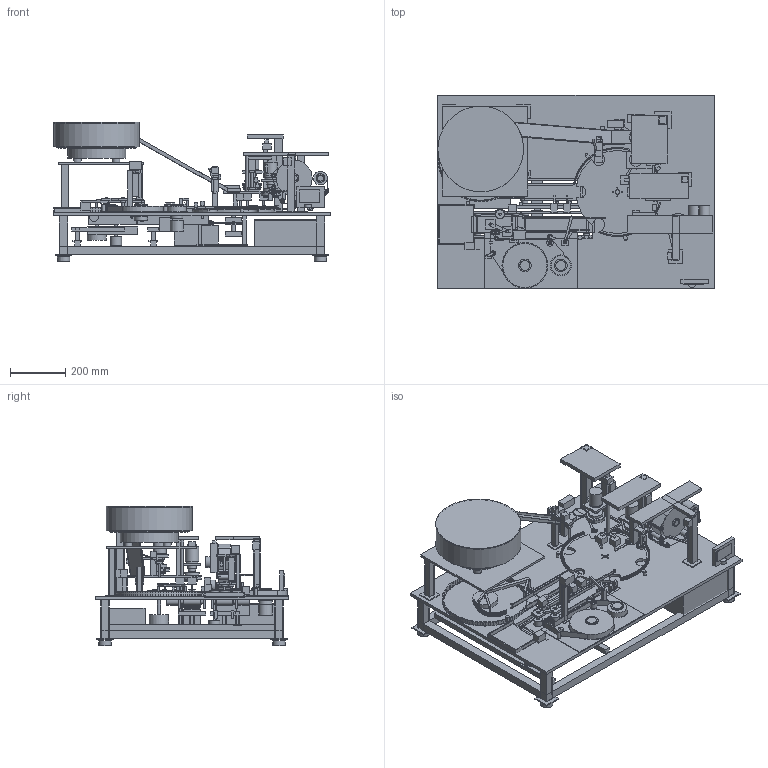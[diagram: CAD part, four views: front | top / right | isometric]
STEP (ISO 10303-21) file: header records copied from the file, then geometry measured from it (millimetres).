
FILE_DESCRIPTION(('Open CASCADE Model'),'2;1');
FILE_NAME('Open CASCADE Shape Model','2026-10-04T02:31:48',('Author'),( 'Open CASCADE'),'Open CASCADE STEP processor 8.0','Open CASCADE 8.0' ,'Unknown');
FILE_SCHEMA(('AUTOMOTIVE_DESIGN { 1 0 10303 214 1 1 1 1 }'));
Length unit declared in the file: millimetre
Products named in the file (430): Open CASCADE STEP translator 8.0 432; Open CASCADE STEP translator 8.0 432.1; Open CASCADE STEP translator 8.0 432.2; Open CASCADE STEP translator 8.0 432.3; Open CASCADE STEP translator 8.0 432.4; Open CASCADE STEP translator 8.0 432.5; Open CASCADE STEP translator 8.0 432.6; Open CASCADE STEP translator 8.0 432.7; Open CASCADE STEP translator 8.0 432.8; Open CASCADE STEP translator 8.0 432.9; Open CASCADE STEP translator 8.0 432.10; Open CASCADE STEP translator 8.0 432.11; Open CASCADE STEP translator 8.0 432.12; Open CASCADE STEP translator 8.0 432.13; Open CASCADE STEP translator 8.0 432.14; Open CASCADE STEP translator 8.0 432.15; Open CASCADE STEP translator 8.0 432.16; Open CASCADE STEP translator 8.0 432.17; Open CASCADE STEP translator 8.0 432.18; Open CASCADE STEP translator 8.0 432.19; Open CASCADE STEP translator 8.0 432.20; Open CASCADE STEP translator 8.0 432.21; Open CASCADE STEP translator 8.0 432.22; Open CASCADE STEP translator 8.0 432.23; Open CASCADE STEP translator 8.0 432.24; Open CASCADE STEP translator 8.0 432.25; Open CASCADE STEP translator 8.0 432.26; Open CASCADE STEP translator 8.0 432.27; Open CASCADE STEP translator 8.0 432.28; Open CASCADE STEP translator 8.0 432.29; Open CASCADE STEP translator 8.0 432.30; Open CASCADE STEP translator 8.0 432.31; Open CASCADE STEP translator 8.0 432.32; Open CASCADE STEP translator 8.0 432.33; Open CASCADE STEP translator 8.0 432.34; Open CASCADE STEP translator 8.0 432.35; Open CASCADE STEP translator 8.0 432.36; Open CASCADE STEP translator 8.0 432.37; Open CASCADE STEP translator 8.0 432.38; Open CASCADE STEP translator 8.0 432.39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
Assembly tree (429 placements, depth 3):
  Open CASCADE STEP translator 8.0 432
    Open CASCADE STEP translator 8.0 432.1
    Open CASCADE STEP translator 8.0 432.2
    Open CASCADE STEP translator 8.0 432.3
    Open CASCADE STEP translator 8.0 432.4
    Open CASCADE STEP translator 8.0 432.5
    Open CASCADE STEP translator 8.0 432.6
    Open CASCADE STEP translator 8.0 432.7
    Open CASCADE STEP translator 8.0 432.8
    Open CASCADE STEP translator 8.0 432.9
    Open CASCADE STEP translator 8.0 432.10
    Open CASCADE STEP translator 8.0 432.11
    Open CASCADE STEP translator 8.0 432.12
    Open CASCADE STEP translator 8.0 432.13
    Open CASCADE STEP translator 8.0 432.14
    Open CASCADE STEP translator 8.0 432.15
    Open CASCADE STEP translator 8.0 432.16
    Open CASCADE STEP translator 8.0 432.17
    Open CASCADE STEP translator 8.0 432.18
    Open CASCADE STEP translator 8.0 432.19
    Open CASCADE STEP translator 8.0 432.20
    Open CASCADE STEP translator 8.0 432.21
    Open CASCADE STEP translator 8.0 432.22
    Open CASCADE STEP translator 8.0 432.23
    Open CASCADE STEP translator 8.0 432.24
    Open CASCADE STEP translator 8.0 432.25
    Open CASCADE STEP translator 8.0 432.26
    Open CASCADE STEP translator 8.0 432.27
    Open CASCADE STEP translator 8.0 432.28
    Open CASCADE STEP translator 8.0 432.29
    Open CASCADE STEP translator 8.0 432.30
    Open CASCADE STEP translator 8.0 432.31
    Open CASCADE STEP translator 8.0 432.32
    Open CASCADE STEP translator 8.0 432.33
    Open CASCADE STEP translator 8.0 432.34
    Open CASCADE STEP translator 8.0 432.35
    Open CASCADE STEP translator 8.0 432.36
    Open CASCADE STEP translator 8.0 432.37
    Open CASCADE STEP translator 8.0 432.38
    Open CASCADE STEP translator 8.0 432.39
    Open CASCADE STEP translator 8.0 432.40
    Open CASCADE STEP translator 8.0 432.41
    Open CASCADE STEP translator 8.0 432.42
    Open CASCADE STEP translator 8.0 432.43
    Open CASCADE STEP translator 8.0 432.44
    Open CASCADE STEP translator 8.0 432.45
    Open CASCADE STEP translator 8.0 432.46
    Open CASCADE STEP translator 8.0 432.47
    Open CASCADE STEP translator 8.0 432.48
    Open CASCADE STEP translator 8.0 432.49
    Open CASCADE STEP translator 8.0 432.50
    Open CASCADE STEP translator 8.0 432.51
    Open CASCADE STEP translator 8.0 432.52
    Open CASCADE STEP translator 8.0 432.53
    Open CASCADE STEP translator 8.0 432.54
    Open CASCADE STEP translator 8.0 432.55
    Open CASCADE STEP translator 8.0 432.56
    Open CASCADE STEP translator 8.0 432.57
    Open CASCADE STEP translator 8.0 432.58
    Open CASCADE STEP translator 8.0 432.59
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Bounding box: 1000 x 700 x 505 mm (x, y, z)
Volume: 23091004.4 mm3; surface area: 5885524.2 mm2
Topology: 428 solids, 428 shells, 6767 faces, 17612 edges, 11695 vertices
Faces by surface type: plane 6409, cylinder 358
Full cylindrical faces by diameter (mm): 1.6 x16, 2.4 x2, 3.4 x4, 4 x3, 5 x2, 6 x11, 8 x26, 8.2 x32, 8.4 x11, 8.6 x6, 8.8 x12, 10 x6, 10.4 x1, 12 x4, 12.4 x10, 12.8 x2, 14 x20, 16 x6, 16.4 x4, 16.6 x1, 18 x6, 20 x4, 22 x14, 22.2 x4, 22.4 x2, 24 x4, 26 x3, 28 x5, 30 x8, 32 x10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
Entity records: 439080 total; most frequent: CARTESIAN_POINT 74826, DIRECTION 66140, LINE 49334, VECTOR 49334, ORIENTED_EDGE 35224, PCURVE 35224, DEFINITIONAL_REPRESENTATION 35224, EDGE_CURVE 17612
